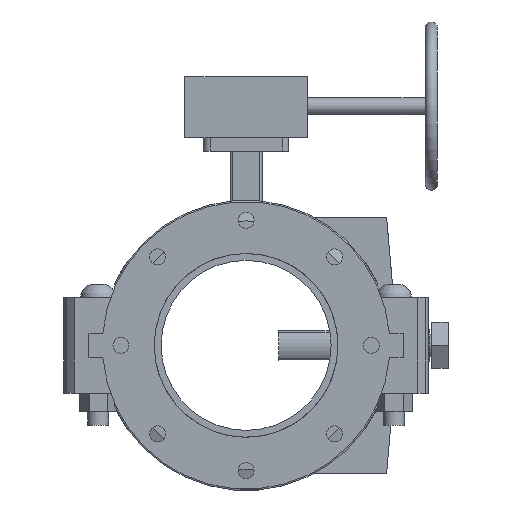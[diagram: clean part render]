
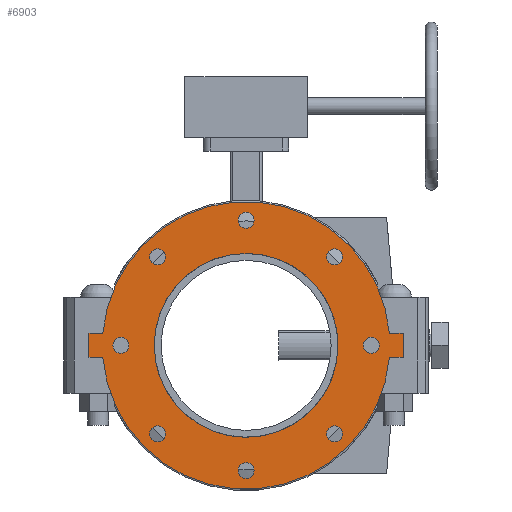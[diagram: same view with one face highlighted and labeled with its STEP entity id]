
A CAD part, front view. The second image highlights one B-rep face of the part: STEP entity #6903.
In plain terms, the highlighted planar face has unit normal (0, -1, 0) as drawn and (0, 0, -1) by its records, which use the part's own axes.
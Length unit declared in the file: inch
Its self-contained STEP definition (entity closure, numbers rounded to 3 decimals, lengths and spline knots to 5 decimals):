
#168=FACE_BOUND('',#892,.T.);
#169=FACE_BOUND('',#893,.T.);
#170=FACE_BOUND('',#894,.T.);
#171=FACE_BOUND('',#895,.T.);
#172=FACE_BOUND('',#896,.T.);
#173=FACE_BOUND('',#897,.T.);
#174=FACE_BOUND('',#898,.T.);
#175=FACE_BOUND('',#899,.T.);
#176=FACE_BOUND('',#900,.T.);
#263=PLANE('',#7514);
#507=FACE_OUTER_BOUND('',#891,.T.);
#891=EDGE_LOOP('',(#4458,#4459,#4460,#4461,#4462,#4463,#4464,#4465));
#892=EDGE_LOOP('',(#4466));
#893=EDGE_LOOP('',(#4467));
#894=EDGE_LOOP('',(#4468));
#895=EDGE_LOOP('',(#4469));
#896=EDGE_LOOP('',(#4470));
#897=EDGE_LOOP('',(#4471));
#898=EDGE_LOOP('',(#4472));
#899=EDGE_LOOP('',(#4473));
#900=EDGE_LOOP('',(#4474,#4475));
#1370=LINE('',#10487,#1881);
#1371=LINE('',#10489,#1882);
#1372=LINE('',#10491,#1883);
#1373=LINE('',#10495,#1884);
#1374=LINE('',#10497,#1885);
#1375=LINE('',#10498,#1886);
#1881=VECTOR('',#8363,0.3937);
#1882=VECTOR('',#8364,0.3937);
#1883=VECTOR('',#8365,0.3937);
#1884=VECTOR('',#8368,0.3937);
#1885=VECTOR('',#8369,0.3937);
#1886=VECTOR('',#8370,0.3937);
#2385=CIRCLE('',#7492,0.375);
#2387=CIRCLE('',#7495,0.375);
#2389=CIRCLE('',#7498,0.375);
#2391=CIRCLE('',#7501,0.375);
#2393=CIRCLE('',#7504,0.375);
#2395=CIRCLE('',#7507,0.375);
#2397=CIRCLE('',#7510,0.375);
#2399=CIRCLE('',#7513,0.375);
#2400=CIRCLE('',#7515,6.75);
#2401=CIRCLE('',#7516,6.75);
#2402=CIRCLE('',#7517,4.3125);
#2403=CIRCLE('',#7518,4.3125);
#2784=VERTEX_POINT('',#10437);
#2786=VERTEX_POINT('',#10443);
#2788=VERTEX_POINT('',#10449);
#2790=VERTEX_POINT('',#10455);
#2792=VERTEX_POINT('',#10461);
#2794=VERTEX_POINT('',#10467);
#2796=VERTEX_POINT('',#10473);
#2798=VERTEX_POINT('',#10479);
#2799=VERTEX_POINT('',#10483);
#2800=VERTEX_POINT('',#10484);
#2801=VERTEX_POINT('',#10486);
#2802=VERTEX_POINT('',#10488);
#2803=VERTEX_POINT('',#10490);
#2804=VERTEX_POINT('',#10492);
#2805=VERTEX_POINT('',#10494);
#2806=VERTEX_POINT('',#10496);
#2807=VERTEX_POINT('',#10499);
#2808=VERTEX_POINT('',#10500);
#3452=EDGE_CURVE('',#2784,#2784,#2385,.T.);
#3455=EDGE_CURVE('',#2786,#2786,#2387,.T.);
#3458=EDGE_CURVE('',#2788,#2788,#2389,.T.);
#3461=EDGE_CURVE('',#2790,#2790,#2391,.T.);
#3464=EDGE_CURVE('',#2792,#2792,#2393,.T.);
#3467=EDGE_CURVE('',#2794,#2794,#2395,.T.);
#3470=EDGE_CURVE('',#2796,#2796,#2397,.T.);
#3473=EDGE_CURVE('',#2798,#2798,#2399,.T.);
#3474=EDGE_CURVE('',#2799,#2800,#2400,.T.);
#3475=EDGE_CURVE('',#2800,#2801,#1370,.T.);
#3476=EDGE_CURVE('',#2801,#2802,#1371,.T.);
#3477=EDGE_CURVE('',#2802,#2803,#1372,.T.);
#3478=EDGE_CURVE('',#2803,#2804,#2401,.T.);
#3479=EDGE_CURVE('',#2804,#2805,#1373,.T.);
#3480=EDGE_CURVE('',#2805,#2806,#1374,.T.);
#3481=EDGE_CURVE('',#2806,#2799,#1375,.T.);
#3482=EDGE_CURVE('',#2807,#2808,#2402,.T.);
#3483=EDGE_CURVE('',#2808,#2807,#2403,.T.);
#4458=ORIENTED_EDGE('',*,*,#3474,.T.);
#4459=ORIENTED_EDGE('',*,*,#3475,.T.);
#4460=ORIENTED_EDGE('',*,*,#3476,.T.);
#4461=ORIENTED_EDGE('',*,*,#3477,.T.);
#4462=ORIENTED_EDGE('',*,*,#3478,.T.);
#4463=ORIENTED_EDGE('',*,*,#3479,.T.);
#4464=ORIENTED_EDGE('',*,*,#3480,.T.);
#4465=ORIENTED_EDGE('',*,*,#3481,.T.);
#4466=ORIENTED_EDGE('',*,*,#3452,.T.);
#4467=ORIENTED_EDGE('',*,*,#3455,.T.);
#4468=ORIENTED_EDGE('',*,*,#3458,.T.);
#4469=ORIENTED_EDGE('',*,*,#3461,.T.);
#4470=ORIENTED_EDGE('',*,*,#3464,.T.);
#4471=ORIENTED_EDGE('',*,*,#3467,.T.);
#4472=ORIENTED_EDGE('',*,*,#3470,.T.);
#4473=ORIENTED_EDGE('',*,*,#3473,.T.);
#4474=ORIENTED_EDGE('',*,*,#3482,.T.);
#4475=ORIENTED_EDGE('',*,*,#3483,.T.);
#6903=ADVANCED_FACE('',(#507,#168,#169,#170,#171,#172,#173,#174,#175,#176),
#263,.T.);
#7492=AXIS2_PLACEMENT_3D('',#10439,#8308,#8309);
#7495=AXIS2_PLACEMENT_3D('',#10445,#8315,#8316);
#7498=AXIS2_PLACEMENT_3D('',#10451,#8322,#8323);
#7501=AXIS2_PLACEMENT_3D('',#10457,#8329,#8330);
#7504=AXIS2_PLACEMENT_3D('',#10463,#8336,#8337);
#7507=AXIS2_PLACEMENT_3D('',#10469,#8343,#8344);
#7510=AXIS2_PLACEMENT_3D('',#10475,#8350,#8351);
#7513=AXIS2_PLACEMENT_3D('',#10481,#8357,#8358);
#7514=AXIS2_PLACEMENT_3D('',#10482,#8359,#8360);
#7515=AXIS2_PLACEMENT_3D('',#10485,#8361,#8362);
#7516=AXIS2_PLACEMENT_3D('',#10493,#8366,#8367);
#7517=AXIS2_PLACEMENT_3D('',#10501,#8371,#8372);
#7518=AXIS2_PLACEMENT_3D('',#10502,#8373,#8374);
#8308=DIRECTION('center_axis',(0.,0.,1.));
#8309=DIRECTION('ref_axis',(-0.707,0.707,0.));
#8315=DIRECTION('center_axis',(0.,0.,1.));
#8316=DIRECTION('ref_axis',(0.,1.,0.));
#8322=DIRECTION('center_axis',(0.,0.,1.));
#8323=DIRECTION('ref_axis',(0.707,0.707,0.));
#8329=DIRECTION('center_axis',(0.,0.,1.));
#8330=DIRECTION('ref_axis',(1.,0.,0.));
#8336=DIRECTION('center_axis',(0.,0.,1.));
#8337=DIRECTION('ref_axis',(0.707,-0.707,0.));
#8343=DIRECTION('center_axis',(0.,0.,1.));
#8344=DIRECTION('ref_axis',(0.,-1.,0.));
#8350=DIRECTION('center_axis',(0.,0.,1.));
#8351=DIRECTION('ref_axis',(-0.707,-0.707,0.));
#8357=DIRECTION('center_axis',(0.,0.,1.));
#8358=DIRECTION('ref_axis',(-1.,0.,0.));
#8359=DIRECTION('center_axis',(0.,0.,-1.));
#8360=DIRECTION('ref_axis',(-1.,0.,0.));
#8361=DIRECTION('center_axis',(0.,0.,-1.));
#8362=DIRECTION('ref_axis',(-1.,0.,0.));
#8363=DIRECTION('',(0.,1.,0.));
#8364=DIRECTION('',(1.,0.,0.));
#8365=DIRECTION('',(0.,-1.,0.));
#8366=DIRECTION('center_axis',(0.,0.,-1.));
#8367=DIRECTION('ref_axis',(-1.,0.,0.));
#8368=DIRECTION('',(0.,-1.,0.));
#8369=DIRECTION('',(-1.,0.,0.));
#8370=DIRECTION('',(0.,1.,0.));
#8371=DIRECTION('center_axis',(0.,0.,1.));
#8372=DIRECTION('ref_axis',(-1.,0.,0.));
#8373=DIRECTION('center_axis',(0.,0.,1.));
#8374=DIRECTION('ref_axis',(-1.,0.,0.));
#10437=CARTESIAN_POINT('',(-3.88909,3.88909,-0.565));
#10439=CARTESIAN_POINT('Origin',(-4.15425,4.15425,-0.565));
#10443=CARTESIAN_POINT('',(0.,5.5,-0.565));
#10445=CARTESIAN_POINT('Origin',(0.,5.875,-0.565));
#10449=CARTESIAN_POINT('',(3.88909,3.88909,-0.565));
#10451=CARTESIAN_POINT('Origin',(4.15425,4.15425,-0.565));
#10455=CARTESIAN_POINT('',(5.5,0.,-0.565));
#10457=CARTESIAN_POINT('Origin',(5.875,0.,-0.565));
#10461=CARTESIAN_POINT('',(3.88909,-3.88909,-0.565));
#10463=CARTESIAN_POINT('Origin',(4.15425,-4.15425,-0.565));
#10467=CARTESIAN_POINT('',(0.,-5.5,-0.565));
#10469=CARTESIAN_POINT('Origin',(0.,-5.875,-0.565));
#10473=CARTESIAN_POINT('',(-3.88909,-3.88909,-0.565));
#10475=CARTESIAN_POINT('Origin',(-4.15425,-4.15425,-0.565));
#10479=CARTESIAN_POINT('',(-5.5,0.,-0.565));
#10481=CARTESIAN_POINT('Origin',(-5.875,0.,-0.565));
#10482=CARTESIAN_POINT('Origin',(0.,0.,-0.565));
#10483=CARTESIAN_POINT('',(-0.565,-6.72631,-0.565));
#10484=CARTESIAN_POINT('',(-0.565,6.72631,-0.565));
#10485=CARTESIAN_POINT('Origin',(0.,0.,-0.565));
#10486=CARTESIAN_POINT('',(-0.565,7.375,-0.565));
#10487=CARTESIAN_POINT('',(-0.565,-7.375,-0.565));
#10488=CARTESIAN_POINT('',(0.565,7.375,-0.565));
#10489=CARTESIAN_POINT('',(-0.565,7.375,-0.565));
#10490=CARTESIAN_POINT('',(0.565,6.72631,-0.565));
#10491=CARTESIAN_POINT('',(0.565,7.375,-0.565));
#10492=CARTESIAN_POINT('',(0.565,-6.72631,-0.565));
#10493=CARTESIAN_POINT('Origin',(0.,0.,-0.565));
#10494=CARTESIAN_POINT('',(0.565,-7.375,-0.565));
#10495=CARTESIAN_POINT('',(0.565,7.375,-0.565));
#10496=CARTESIAN_POINT('',(-0.565,-7.375,-0.565));
#10497=CARTESIAN_POINT('',(0.565,-7.375,-0.565));
#10498=CARTESIAN_POINT('',(-0.565,-7.375,-0.565));
#10499=CARTESIAN_POINT('',(0.565,4.27533,-0.565));
#10500=CARTESIAN_POINT('',(4.3125,0.,-0.565));
#10501=CARTESIAN_POINT('Origin',(0.,0.,-0.565));
#10502=CARTESIAN_POINT('Origin',(0.,0.,-0.565));
